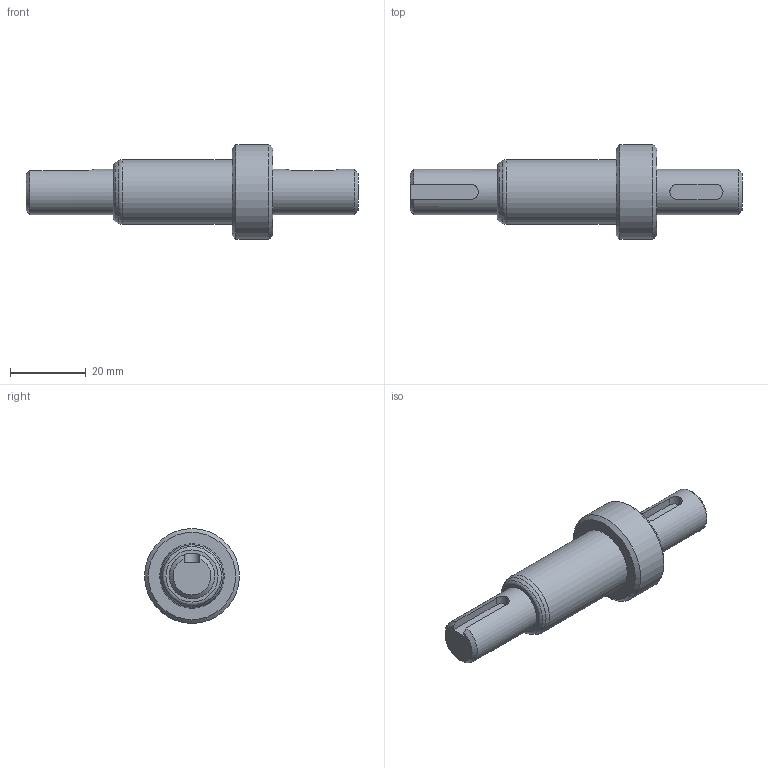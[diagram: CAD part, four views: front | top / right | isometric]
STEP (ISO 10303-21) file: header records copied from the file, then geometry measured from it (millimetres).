
FILE_DESCRIPTION(/* description */ (''),/* implementation_level */ '2;1');
FILE_NAME(/* name */ '',/* time_stamp */ '2024-07-17T10:50:44+09:00',/* author */ ('jhkim'),/* organization */ (''),/* preprocessor_version */ 'ST-DEVELOPER v20',/* originating_system */ 'Autodesk Inventor 2025',/* authorisation */ '');
FILE_SCHEMA (('AUTOMOTIVE_DESIGN { 1 0 10303 214 3 1 1 }'));
Length unit declared in the file: millimetre
Products named in the file (1): 서브 축
Bounding box: 87.5 x 25 x 25 mm (x, y, z)
Volume: 17038 mm3; surface area: 5161.3 mm2
Topology: 1 solids, 1 shells, 25 faces, 59 edges, 40 vertices
Faces by surface type: plane 11, cylinder 7, cone 5, torus 2
Full cylindrical faces by diameter (mm): 12 x2, 17 x1, 25 x1
Entity records: 818 total; most frequent: CARTESIAN_POINT 183, DIRECTION 129, ORIENTED_EDGE 118, EDGE_CURVE 59, AXIS2_PLACEMENT_3D 52, VERTEX_POINT 40, EDGE_LOOP 29, CIRCLE 26
